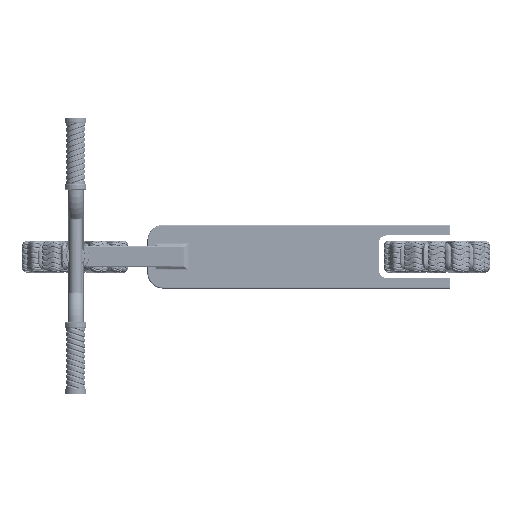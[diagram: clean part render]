
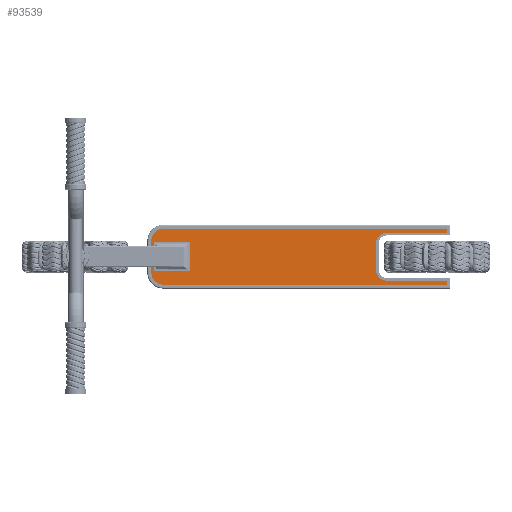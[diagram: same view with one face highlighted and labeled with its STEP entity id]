
A CAD part, top view. The second image highlights one B-rep face of the part: STEP entity #93539.
In plain terms, the highlighted planar face has unit normal (0, 0, 1).
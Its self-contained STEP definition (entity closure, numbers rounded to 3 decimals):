
#3435=PLANE('',#99031);
#4149=FACE_BOUND('',#24569,.T.);
#4460=LINE('',#134146,#6387);
#4463=LINE('',#134152,#6390);
#4466=LINE('',#134158,#6393);
#4469=LINE('',#134162,#6396);
#4473=LINE('',#134176,#6400);
#4477=LINE('',#134188,#6404);
#4480=LINE('',#134194,#6407);
#4483=LINE('',#134200,#6410);
#4487=LINE('',#134212,#6414);
#4491=LINE('',#134224,#6418);
#4494=LINE('',#134230,#6421);
#4497=LINE('',#134234,#6424);
#6387=VECTOR('',#106638,10.);
#6390=VECTOR('',#106643,10.);
#6393=VECTOR('',#106648,10.);
#6396=VECTOR('',#106653,10.);
#6400=VECTOR('',#106665,10.);
#6404=VECTOR('',#106677,10.);
#6407=VECTOR('',#106682,10.);
#6410=VECTOR('',#106687,10.);
#6414=VECTOR('',#106699,10.);
#6418=VECTOR('',#106711,10.);
#6421=VECTOR('',#106716,10.);
#6424=VECTOR('',#106721,10.);
#19309=FACE_OUTER_BOUND('',#24568,.T.);
#24568=EDGE_LOOP('',(#62233,#62234,#62235,#62236,#62237,#62238,#62239,#62240,
#62241,#62242,#62243,#62244));
#24569=EDGE_LOOP('',(#62245,#62246,#62247,#62248));
#29945=CIRCLE('',#99013,20.);
#29947=CIRCLE('',#99017,20.);
#29949=CIRCLE('',#99023,22.5);
#29951=CIRCLE('',#99027,22.5);
#34305=VERTEX_POINT('',#134143);
#34306=VERTEX_POINT('',#134145);
#34308=VERTEX_POINT('',#134151);
#34310=VERTEX_POINT('',#134157);
#34313=VERTEX_POINT('',#134167);
#34314=VERTEX_POINT('',#134169);
#34316=VERTEX_POINT('',#134175);
#34318=VERTEX_POINT('',#134181);
#34320=VERTEX_POINT('',#134187);
#34322=VERTEX_POINT('',#134193);
#34324=VERTEX_POINT('',#134199);
#34326=VERTEX_POINT('',#134205);
#34328=VERTEX_POINT('',#134211);
#34330=VERTEX_POINT('',#134217);
#34332=VERTEX_POINT('',#134223);
#34334=VERTEX_POINT('',#134229);
#45351=EDGE_CURVE('',#34306,#34305,#4460,.T.);
#45354=EDGE_CURVE('',#34308,#34306,#4463,.T.);
#45357=EDGE_CURVE('',#34310,#34308,#4466,.T.);
#45360=EDGE_CURVE('',#34305,#34310,#4469,.T.);
#45363=EDGE_CURVE('',#34314,#34313,#29945,.T.);
#45366=EDGE_CURVE('',#34316,#34314,#4473,.T.);
#45369=EDGE_CURVE('',#34318,#34316,#29947,.T.);
#45372=EDGE_CURVE('',#34320,#34318,#4477,.T.);
#45375=EDGE_CURVE('',#34322,#34320,#4480,.T.);
#45378=EDGE_CURVE('',#34324,#34322,#4483,.T.);
#45381=EDGE_CURVE('',#34326,#34324,#29949,.T.);
#45384=EDGE_CURVE('',#34328,#34326,#4487,.T.);
#45387=EDGE_CURVE('',#34330,#34328,#29951,.T.);
#45390=EDGE_CURVE('',#34332,#34330,#4491,.T.);
#45393=EDGE_CURVE('',#34334,#34332,#4494,.T.);
#45396=EDGE_CURVE('',#34313,#34334,#4497,.T.);
#62233=ORIENTED_EDGE('',*,*,#45396,.T.);
#62234=ORIENTED_EDGE('',*,*,#45393,.T.);
#62235=ORIENTED_EDGE('',*,*,#45390,.T.);
#62236=ORIENTED_EDGE('',*,*,#45387,.T.);
#62237=ORIENTED_EDGE('',*,*,#45384,.T.);
#62238=ORIENTED_EDGE('',*,*,#45381,.T.);
#62239=ORIENTED_EDGE('',*,*,#45378,.T.);
#62240=ORIENTED_EDGE('',*,*,#45375,.T.);
#62241=ORIENTED_EDGE('',*,*,#45372,.T.);
#62242=ORIENTED_EDGE('',*,*,#45369,.T.);
#62243=ORIENTED_EDGE('',*,*,#45366,.T.);
#62244=ORIENTED_EDGE('',*,*,#45363,.T.);
#62245=ORIENTED_EDGE('',*,*,#45360,.T.);
#62246=ORIENTED_EDGE('',*,*,#45357,.T.);
#62247=ORIENTED_EDGE('',*,*,#45354,.T.);
#62248=ORIENTED_EDGE('',*,*,#45351,.T.);
#93539=ADVANCED_FACE('',(#19309,#4149),#3435,.T.);
#99013=AXIS2_PLACEMENT_3D('',#134170,#106659,#106660);
#99017=AXIS2_PLACEMENT_3D('',#134182,#106671,#106672);
#99023=AXIS2_PLACEMENT_3D('',#134206,#106693,#106694);
#99027=AXIS2_PLACEMENT_3D('',#134218,#106705,#106706);
#99031=AXIS2_PLACEMENT_3D('',#134235,#106722,#106723);
#106638=DIRECTION('',(1.,0.,0.));
#106643=DIRECTION('',(0.,1.,0.));
#106648=DIRECTION('',(-1.,0.,0.));
#106653=DIRECTION('',(0.,-1.,0.));
#106659=DIRECTION('center_axis',(0.,0.,-1.));
#106660=DIRECTION('ref_axis',(0.,1.,0.));
#106665=DIRECTION('',(0.,1.,0.));
#106671=DIRECTION('center_axis',(0.,0.,-1.));
#106672=DIRECTION('ref_axis',(-1.,0.,0.));
#106677=DIRECTION('',(-1.,0.,0.));
#106682=DIRECTION('',(0.,1.,0.));
#106687=DIRECTION('',(1.,0.,0.));
#106693=DIRECTION('center_axis',(0.,0.,1.));
#106694=DIRECTION('ref_axis',(-1.,0.,0.));
#106699=DIRECTION('',(0.,-1.,0.));
#106705=DIRECTION('center_axis',(0.,0.,1.));
#106706=DIRECTION('ref_axis',(0.,1.,0.));
#106711=DIRECTION('',(-1.,0.,0.));
#106716=DIRECTION('',(0.,1.,0.));
#106721=DIRECTION('',(1.,0.,0.));
#106722=DIRECTION('center_axis',(0.,0.,1.));
#106723=DIRECTION('ref_axis',(-1.,0.,0.));
#134143=CARTESIAN_POINT('',(215.144,27.,36.));
#134145=CARTESIAN_POINT('',(147.773,27.,36.));
#134146=CARTESIAN_POINT('',(147.773,27.,36.));
#134151=CARTESIAN_POINT('',(147.773,-27.,36.));
#134152=CARTESIAN_POINT('',(147.773,-27.,36.));
#134157=CARTESIAN_POINT('',(215.144,-27.,36.));
#134158=CARTESIAN_POINT('',(215.144,-27.,36.));
#134162=CARTESIAN_POINT('',(215.144,27.,36.));
#134167=CARTESIAN_POINT('',(585.,45.,36.));
#134169=CARTESIAN_POINT('',(565.,25.,36.));
#134170=CARTESIAN_POINT('Origin',(585.,25.,36.));
#134175=CARTESIAN_POINT('',(565.,-25.,36.));
#134176=CARTESIAN_POINT('',(565.,-25.,36.));
#134181=CARTESIAN_POINT('',(585.,-45.,36.));
#134182=CARTESIAN_POINT('Origin',(585.,-25.,36.));
#134187=CARTESIAN_POINT('',(697.5,-45.,36.));
#134188=CARTESIAN_POINT('',(697.5,-45.,36.));
#134193=CARTESIAN_POINT('',(697.5,-52.5,36.));
#134194=CARTESIAN_POINT('',(697.5,-52.5,36.));
#134199=CARTESIAN_POINT('',(165.,-52.5,36.));
#134200=CARTESIAN_POINT('',(165.,-52.5,36.));
#134205=CARTESIAN_POINT('',(142.5,-30.,36.));
#134206=CARTESIAN_POINT('Origin',(165.,-30.,36.));
#134211=CARTESIAN_POINT('',(142.5,30.,36.));
#134212=CARTESIAN_POINT('',(142.5,30.,36.));
#134217=CARTESIAN_POINT('',(165.,52.5,36.));
#134218=CARTESIAN_POINT('Origin',(165.,30.,36.));
#134223=CARTESIAN_POINT('',(697.5,52.5,36.));
#134224=CARTESIAN_POINT('',(697.5,52.5,36.));
#134229=CARTESIAN_POINT('',(697.5,45.,36.));
#134230=CARTESIAN_POINT('',(697.5,45.,36.));
#134234=CARTESIAN_POINT('',(585.,45.,36.));
#134235=CARTESIAN_POINT('Origin',(420.,0.,36.));
